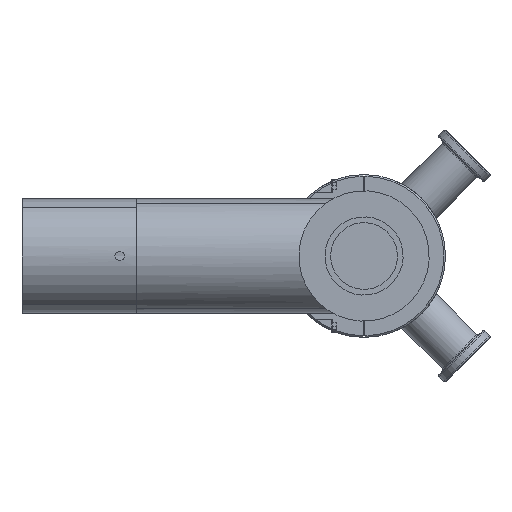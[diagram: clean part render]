
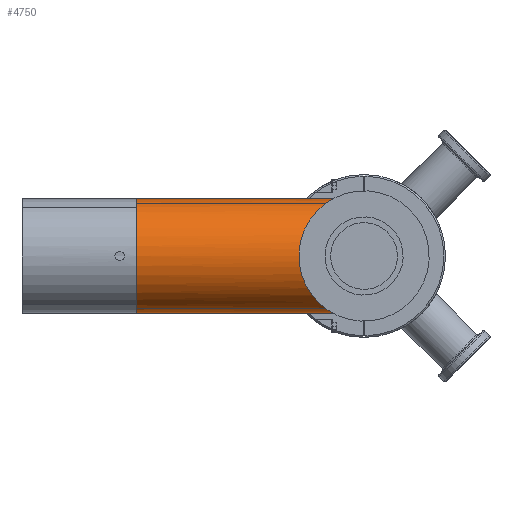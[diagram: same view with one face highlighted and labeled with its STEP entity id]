
A CAD part, front view. The second image highlights one B-rep face of the part: STEP entity #4750.
In plain terms, the highlighted cylindrical face has radius 17.5 mm (diameter 35 mm), a partial arc.
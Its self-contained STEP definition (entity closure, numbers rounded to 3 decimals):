
#2 = ORIENTED_EDGE ( 'NONE', *, *, #80, .F. ) ;
#4 = DIRECTION ( 'NONE',  ( 1., 0., 0. ) ) ;
#72 = DIRECTION ( 'NONE',  ( 0., 0., 1. ) ) ;
#80 = EDGE_CURVE ( 'NONE', #463, #3413, #4861, .T. ) ;
#274 = CARTESIAN_POINT ( 'NONE',  ( 17.5, -10.251, 10.251 ) ) ;
#284 = VECTOR ( 'NONE', #3231, 1000. ) ;
#310 = AXIS2_PLACEMENT_3D ( 'NONE', #863, #72, #1190 ) ;
#445 = CYLINDRICAL_SURFACE ( 'NONE', #1073, 17.5 ) ;
#463 = VERTEX_POINT ( 'NONE', #3148 ) ;
#562 = CARTESIAN_POINT ( 'NONE',  ( 17.5, 0., 70. ) ) ;
#655 = VERTEX_POINT ( 'NONE', #562 ) ;
#825 = CARTESIAN_POINT ( 'NONE',  ( -17.5, 0., 70. ) ) ;
#863 = CARTESIAN_POINT ( 'NONE',  ( 0., 0., 70. ) ) ;
#906 = VECTOR ( 'NONE', #1203, 1000. ) ;
#1068 = CARTESIAN_POINT ( 'NONE',  ( 0., -17.5, 17.5 ) ) ;
#1073 = AXIS2_PLACEMENT_3D ( 'NONE', #4532, #3693, #4 ) ;
#1190 = DIRECTION ( 'NONE',  ( 1., 0., 0. ) ) ;
#1203 = DIRECTION ( 'NONE',  ( 0., 0., 1. ) ) ;
#1347 = LINE ( 'NONE', #2566, #906 ) ;
#1377 = CARTESIAN_POINT ( 'NONE',  ( 17.5, 0., 0. ) ) ;
#1675 = EDGE_CURVE ( 'NONE', #463, #4447, #4204, .T. ) ;
#1734 =( BOUNDED_CURVE ( )  B_SPLINE_CURVE ( 3, ( #1942, #3895, #274, #3143 ),
 .UNSPECIFIED., .F., .F. ) 
 B_SPLINE_CURVE_WITH_KNOTS ( ( 4, 4 ),
 ( 0., 1.571 ),
 .UNSPECIFIED. ) 
 CURVE ( )  GEOMETRIC_REPRESENTATION_ITEM ( )  RATIONAL_B_SPLINE_CURVE ( ( 1., 0.805, 0.805, 1. ) ) 
 REPRESENTATION_ITEM ( '' )  );
#1930 = EDGE_LOOP ( 'NONE', ( #2, #4637, #3446, #5123, #3402 ) ) ;
#1942 = CARTESIAN_POINT ( 'NONE',  ( 0., -17.5, 17.5 ) ) ;
#1962 = VERTEX_POINT ( 'NONE', #1377 ) ;
#2284 = CARTESIAN_POINT ( 'NONE',  ( -10.251, -17.5, 17.5 ) ) ;
#2482 = CARTESIAN_POINT ( 'NONE',  ( -17.5, 0., -17.502 ) ) ;
#2566 = CARTESIAN_POINT ( 'NONE',  ( 17.5, 0., -17.502 ) ) ;
#2578 = EDGE_CURVE ( 'NONE', #3413, #655, #5199, .T. ) ;
#2666 = EDGE_CURVE ( 'NONE', #1962, #655, #1347, .T. ) ;
#3143 = CARTESIAN_POINT ( 'NONE',  ( 17.5, 0., 0. ) ) ;
#3148 = CARTESIAN_POINT ( 'NONE',  ( -17.5, 0., 0. ) ) ;
#3231 = DIRECTION ( 'NONE',  ( 0., 0., 1. ) ) ;
#3402 = ORIENTED_EDGE ( 'NONE', *, *, #2578, .F. ) ;
#3413 = VERTEX_POINT ( 'NONE', #825 ) ;
#3446 = ORIENTED_EDGE ( 'NONE', *, *, #5088, .T. ) ;
#3501 = CARTESIAN_POINT ( 'NONE',  ( -17.5, 0., 0. ) ) ;
#3693 = DIRECTION ( 'NONE',  ( 0., 0., 1. ) ) ;
#3895 = CARTESIAN_POINT ( 'NONE',  ( 10.251, -17.5, 17.5 ) ) ;
#4204 =( BOUNDED_CURVE ( )  B_SPLINE_CURVE ( 3, ( #3501, #4250, #2284, #4733 ),
 .UNSPECIFIED., .F., .F. ) 
 B_SPLINE_CURVE_WITH_KNOTS ( ( 4, 4 ),
 ( 4.712, 6.283 ),
 .UNSPECIFIED. ) 
 CURVE ( )  GEOMETRIC_REPRESENTATION_ITEM ( )  RATIONAL_B_SPLINE_CURVE ( ( 1., 0.805, 0.805, 1. ) ) 
 REPRESENTATION_ITEM ( '' )  );
#4250 = CARTESIAN_POINT ( 'NONE',  ( -17.5, -10.251, 10.251 ) ) ;
#4447 = VERTEX_POINT ( 'NONE', #1068 ) ;
#4532 = CARTESIAN_POINT ( 'NONE',  ( 0., 0., -17.502 ) ) ;
#4637 = ORIENTED_EDGE ( 'NONE', *, *, #1675, .T. ) ;
#4733 = CARTESIAN_POINT ( 'NONE',  ( 0., -17.5, 17.5 ) ) ;
#4750 = ADVANCED_FACE ( 'NONE', ( #4923 ), #445, .T. ) ;
#4861 = LINE ( 'NONE', #2482, #284 ) ;
#4923 = FACE_OUTER_BOUND ( 'NONE', #1930, .T. ) ;
#5088 = EDGE_CURVE ( 'NONE', #4447, #1962, #1734, .T. ) ;
#5123 = ORIENTED_EDGE ( 'NONE', *, *, #2666, .T. ) ;
#5199 = CIRCLE ( 'NONE', #310, 17.5 ) ;
